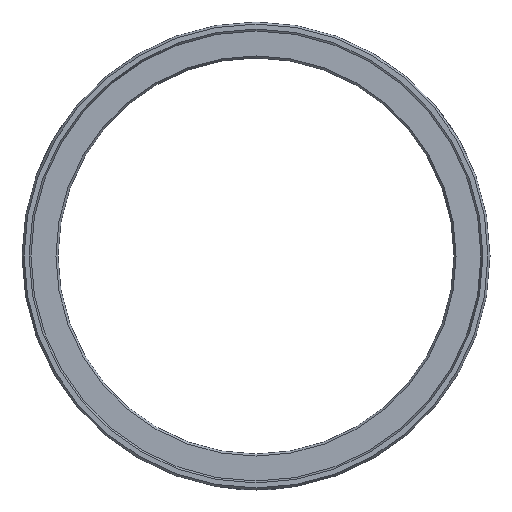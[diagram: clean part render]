
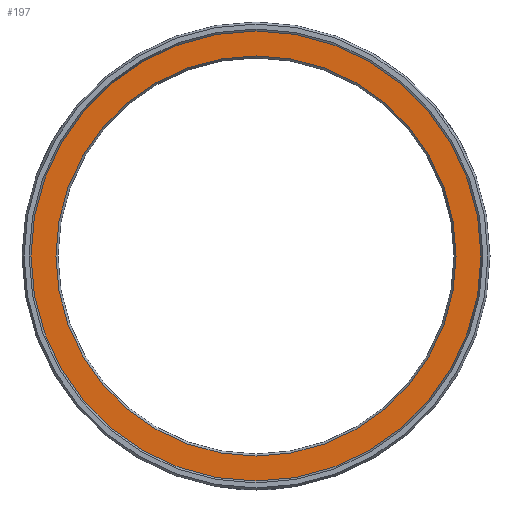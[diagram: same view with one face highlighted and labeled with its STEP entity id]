
A CAD part, left-side view. The second image highlights one B-rep face of the part: STEP entity #197.
In plain terms, the highlighted planar face has unit normal (-1, 0, 0).
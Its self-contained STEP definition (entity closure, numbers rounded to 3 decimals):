
#163=PLANE('',#797);
#197=ADVANCED_FACE('',(#265,#266),#163,.T.);
#265=FACE_BOUND('',#316,.T.);
#266=FACE_BOUND('',#317,.T.);
#316=EDGE_LOOP('',(#471));
#317=EDGE_LOOP('',(#472));
#471=ORIENTED_EDGE('',*,*,#652,.T.);
#472=ORIENTED_EDGE('',*,*,#651,.F.);
#569=VERTEX_POINT('',#1259);
#570=VERTEX_POINT('',#1262);
#651=EDGE_CURVE('',#569,#569,#709,.T.);
#652=EDGE_CURVE('',#570,#570,#710,.T.);
#709=CIRCLE('',#794,62.5);
#710=CIRCLE('',#796,55.577);
#794=AXIS2_PLACEMENT_3D('',#1258,#975,#976);
#796=AXIS2_PLACEMENT_3D('',#1261,#979,#980);
#797=AXIS2_PLACEMENT_3D('',#1263,#981,#982);
#975=DIRECTION('',(1.,0.,0.));
#976=DIRECTION('',(0.,0.,-1.));
#979=DIRECTION('',(1.,0.,0.));
#980=DIRECTION('',(0.,0.,1.));
#981=DIRECTION('',(-1.,0.,0.));
#982=DIRECTION('',(0.,0.,1.));
#1258=CARTESIAN_POINT('',(0.,0.,0.));
#1259=CARTESIAN_POINT('',(0.,0.,-62.5));
#1261=CARTESIAN_POINT('',(0.,0.,0.));
#1262=CARTESIAN_POINT('',(0.,0.,55.577));
#1263=CARTESIAN_POINT('',(0.,62.5,0.));
